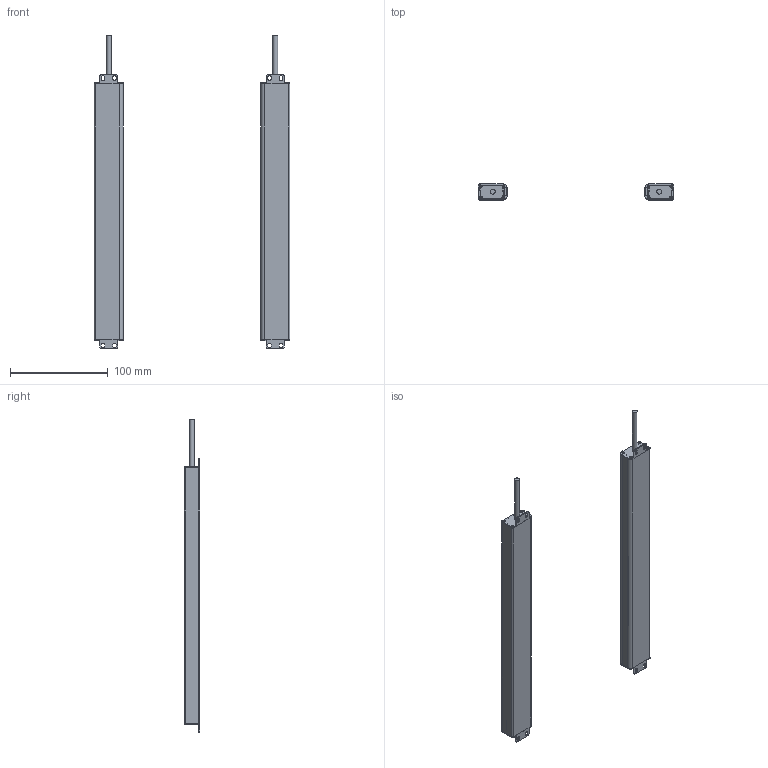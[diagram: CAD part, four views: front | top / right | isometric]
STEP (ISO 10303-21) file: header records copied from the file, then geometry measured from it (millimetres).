
FILE_DESCRIPTION(/* description */ (''),/* implementation_level */ '2;1');
FILE_NAME(/* name */ '2610（16X30w).stp',/* time_stamp */ '2020-09-24T15:52:41+08:00',/* author */ (''),/* organization */ (''),/* preprocessor_version */ 'ST-DEVELOPER v16',/* originating_system */ 'SIEMENS PLM Software NX 10.0',/* authorisation */ '');
FILE_SCHEMA (('AP203_CONFIGURATION_CONTROLLED_3D_DESIGN_OF_MECHANICAL_PARTS_AND_ASSEMBLIES_MIM_LF { 1 0 10303 403 2 1 2}'));
Length unit declared in the file: millimetre
Products named in the file (1): Admi073CA846p3ez
Bounding box: 200 x 16 x 321.5 mm (x, y, z)
Volume: 78129.8 mm3; surface area: 116087.2 mm2
Topology: 10 solids, 10 shells, 296 faces, 830 edges, 554 vertices
Faces by surface type: plane 160, cylinder 136
Full cylindrical faces by diameter (mm): 5 x2
Entity records: 9760 total; most frequent: DIRECTION 1692, CARTESIAN_POINT 1675, ORIENTED_EDGE 1652, EDGE_CURVE 826, AXIS2_PLACEMENT_3D 569, LINE 554, VECTOR 554, VERTEX_POINT 552
